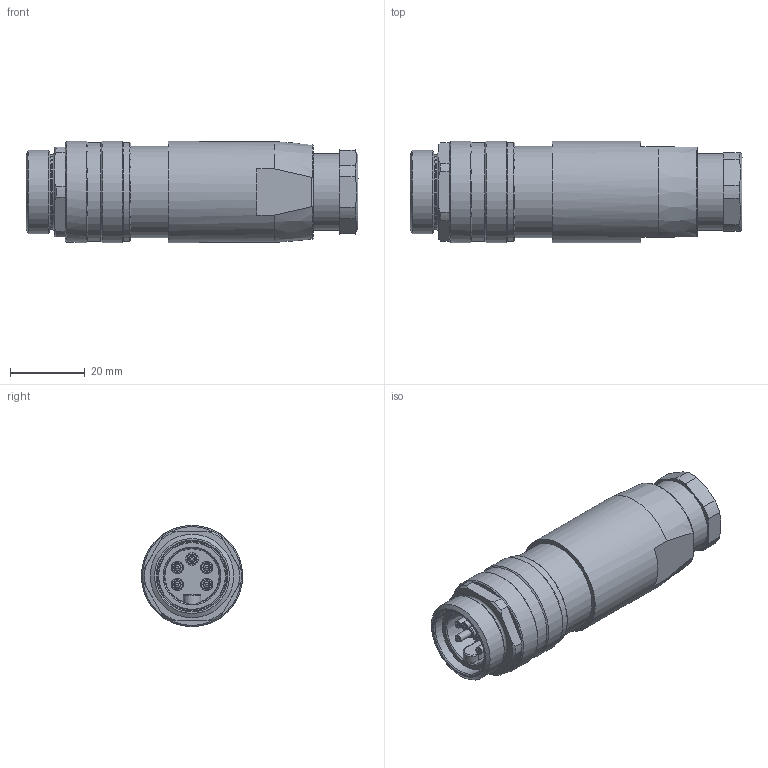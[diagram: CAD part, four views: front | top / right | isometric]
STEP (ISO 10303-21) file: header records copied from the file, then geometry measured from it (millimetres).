
FILE_DESCRIPTION(/* description */ (''),/* implementation_level */ '2;1');
FILE_NAME(/* name */ '99-2445-32-05_bg.stp',/* time_stamp */ '2010-02-08T13:14:38+01:00',/* author */ (''),/* organization */ (''),/* preprocessor_version */ 'ST-DEVELOPER v11',/* originating_system */ 'UGS - NX 5.0',/* authorisation */ '');
FILE_SCHEMA (('CONFIG_CONTROL_DESIGN'));
Length unit declared in the file: millimetre
Products named in the file (1): kbor31A1ijwb
Bounding box: 88.6 x 27 x 27 mm (x, y, z)
Volume: 42537.9 mm3; surface area: 10523.7 mm2
Topology: 1 solids, 1 shells, 135 faces, 306 edges, 191 vertices
Faces by surface type: plane 45, cylinder 45, cone 25, torus 10, bspline 10
Full cylindrical faces by diameter (mm): 2 x5, 3.3 x5, 17.8 x1, 18.1 x1, 18.5 x1, 20 x1, 20.4 x1, 22.187 x1, 24.5 x1, 26.3 x2, 27 x3
Entity records: 3795 total; most frequent: CARTESIAN_POINT 999, DIRECTION 581, ORIENTED_EDGE 474, AXIS2_PLACEMENT_3D 254, EDGE_CURVE 237, EDGE_LOOP 207, VERTEX_POINT 176, FACE_BOUND 140
